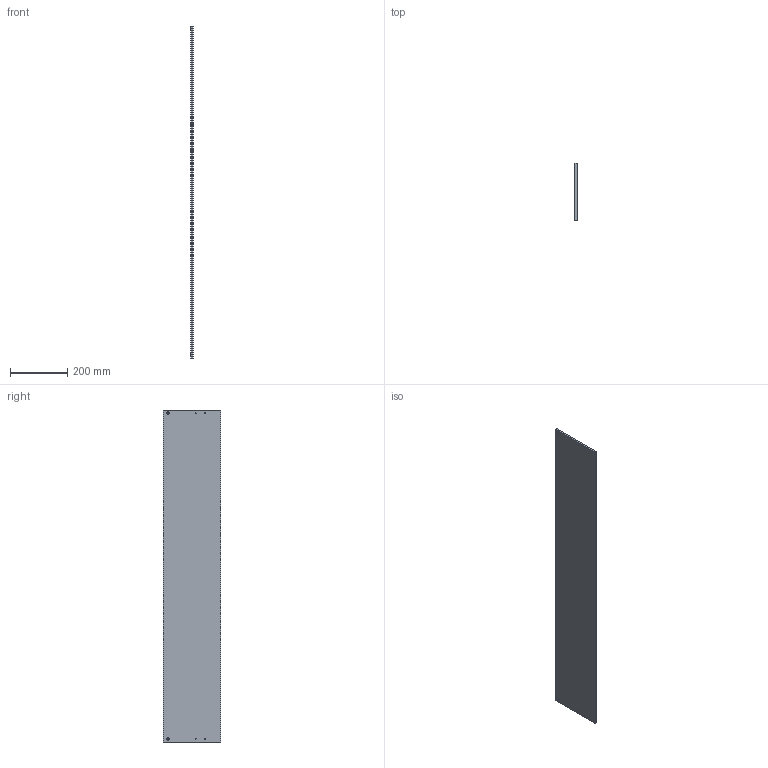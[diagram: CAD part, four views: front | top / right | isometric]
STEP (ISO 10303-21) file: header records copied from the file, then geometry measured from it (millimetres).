
FILE_DESCRIPTION (( 'STEP AP214' ), '1' );
FILE_NAME ('Innenblende_H185_NL1200_PD55001000.STEP', '2014-07-09T10:37:50', ( '' ), ( '' ), 'SwSTEP 2.0', 'SolidWorks 2013', '' );
FILE_SCHEMA (( 'AUTOMOTIVE_DESIGN' ));
Length unit declared in the file: millimetre
Products named in the file (1): Innenblende_H185_NL1200_PD55001000
Bounding box: 7.5 x 200 x 1160 mm (x, y, z)
Volume: 1739113.7 mm3; surface area: 484415.7 mm2
Topology: 1 solids, 1 shells, 26 faces, 54 edges, 36 vertices
Faces by surface type: cylinder 14, plane 12
Entity records: 740 total; most frequent: DIRECTION 136, CARTESIAN_POINT 117, ORIENTED_EDGE 108, AXIS2_PLACEMENT_3D 55, EDGE_CURVE 54, VERTEX_POINT 36, EDGE_LOOP 32, CIRCLE 28
